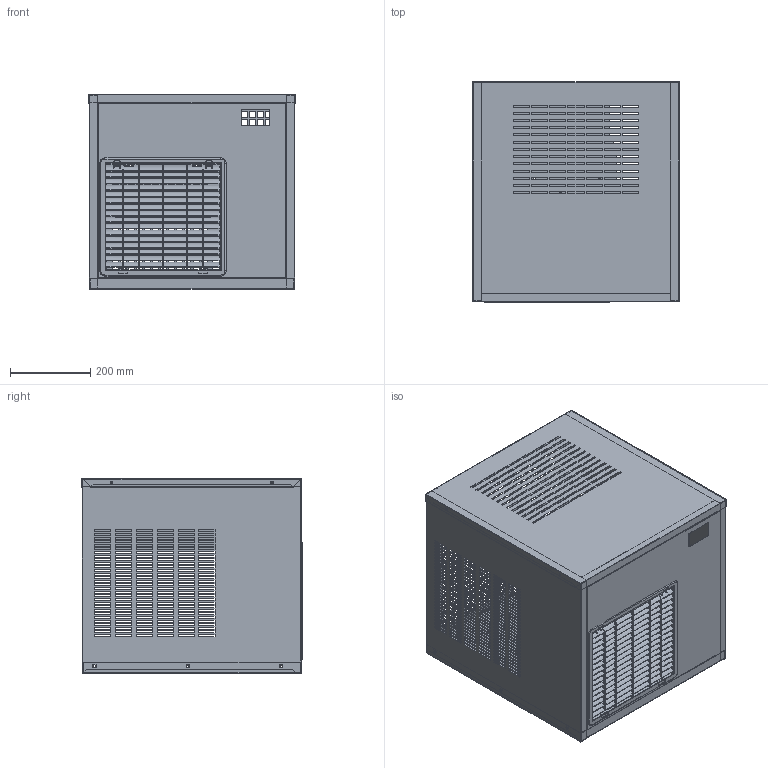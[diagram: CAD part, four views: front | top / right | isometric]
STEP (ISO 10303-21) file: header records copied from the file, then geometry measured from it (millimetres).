
FILE_DESCRIPTION(/* description */ ('Unknown'),/* implementation_level */ '2;1');
FILE_NAME(/* name */ 'IQ-150',/* time_stamp */ '2018-04-23T12:53:53+02:00',/* author */ ('Unknown'),/* organization */ ('Unknown'),/* preprocessor_version */ 'ST-DEVELOPER v16.7',/* originating_system */ 'DEX',/* authorisation */ $);
FILE_SCHEMA (('CONFIG_CONTROL_DESIGN'));
Products named in the file (9): IQ-150_2011; 24-61+1915; 24-60+1927; 24-60+1928; 24-29+1949; Pilotos-IQ_oa_0; 24-27+2465; 24-227+6646; 28-143+6084
Assembly tree (8 placements, depth 2):
  IQ-150_2011
    24-61+1915
    24-60+1927
    24-60+1928
    24-29+1949
    Pilotos-IQ_oa_0
    24-27+2465
    24-227+6646
    28-143+6084
Bounding box: 515.2 x 548.7 x 485.6 mm (x, y, z)
Volume: 1540251.9 mm3; surface area: 3430272.2 mm2
Topology: 7 solids, 7 shells, 4324 faces, 12997 edges, 8572 vertices
Faces by surface type: plane 3701, cylinder 571, bspline 20, cone 20, sphere 8, torus 4
Full cylindrical faces by diameter (mm): 4 x15, 4.25 x8, 6 x30, 8 x8, 12 x2, 15 x1
Entity records: 148032 total; most frequent: CARTESIAN_POINT 26998, ORIENTED_EDGE 25810, DIRECTION 22683, EDGE_CURVE 12905, LINE 11321, VECTOR 11321, VERTEX_POINT 8554, EDGE_LOOP 6153
